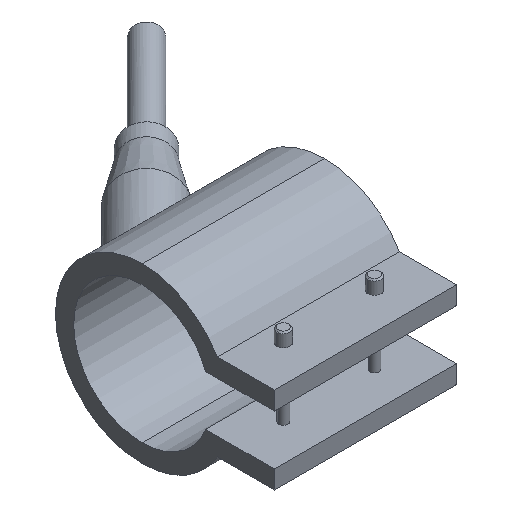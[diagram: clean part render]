
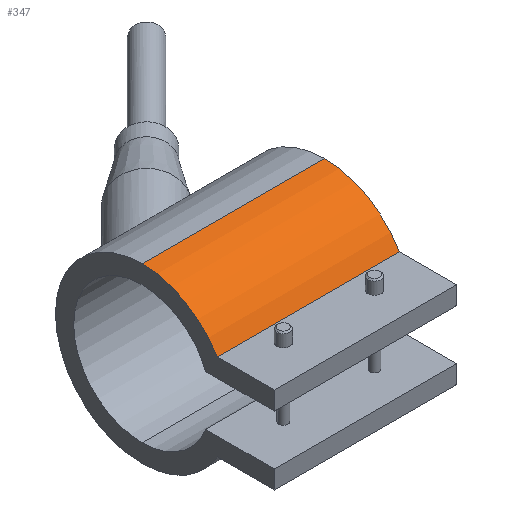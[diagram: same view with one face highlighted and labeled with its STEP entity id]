
A CAD part, isometric view. The second image highlights one B-rep face of the part: STEP entity #347.
In plain terms, the highlighted cylindrical face has radius 19 mm (diameter 38 mm), a partial arc.
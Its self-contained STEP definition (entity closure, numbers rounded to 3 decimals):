
#228=CARTESIAN_POINT('Line Origine',(20.,0.,19.)) ;
#232=CARTESIAN_POINT('Vertex',(20.,0.,19.)) ;
#234=CARTESIAN_POINT('Vertex',(-20.,0.,19.)) ;
#317=CARTESIAN_POINT('Axis2P3D Location',(20.,0.,0.)) ;
#322=CARTESIAN_POINT('Axis2P3D Location',(-20.,0.,0.)) ;
#326=CARTESIAN_POINT('Vertex',(-20.,-16.454,9.5)) ;
#329=CARTESIAN_POINT('Line Origine',(20.,-16.454,9.5)) ;
#333=CARTESIAN_POINT('Vertex',(20.,-16.454,9.5)) ;
#336=CARTESIAN_POINT('Axis2P3D Location',(20.,0.,0.)) ;
#229=DIRECTION('Vector Direction',(1.,0.,0.)) ;
#318=DIRECTION('Axis2P3D Direction',(1.,0.,-0.)) ;
#319=DIRECTION('Axis2P3D XDirection',(0.,0.,1.)) ;
#323=DIRECTION('Axis2P3D Direction',(1.,0.,-0.)) ;
#330=DIRECTION('Vector Direction',(1.,0.,0.)) ;
#337=DIRECTION('Axis2P3D Direction',(1.,0.,-0.)) ;
#320=AXIS2_PLACEMENT_3D('Cylinder Axis2P3D',#317,#318,#319) ;
#324=AXIS2_PLACEMENT_3D('Circle Axis2P3D',#322,#323,$) ;
#338=AXIS2_PLACEMENT_3D('Circle Axis2P3D',#336,#337,$) ;
#342=ORIENTED_EDGE('',*,*,#236,.T.) ;
#343=ORIENTED_EDGE('',*,*,#328,.T.) ;
#344=ORIENTED_EDGE('',*,*,#335,.F.) ;
#345=ORIENTED_EDGE('',*,*,#340,.F.) ;
#230=VECTOR('Line Direction',#229,1.) ;
#331=VECTOR('Line Direction',#330,1.) ;
#347=ADVANCED_FACE('29030040',(#346),#321,.T.) ;
#325=CIRCLE('generated circle',#324,19.) ;
#339=CIRCLE('generated circle',#338,19.) ;
#321=CYLINDRICAL_SURFACE('generated cylinder',#320,19.) ;
#236=EDGE_CURVE('',#233,#235,#231,.F.) ;
#328=EDGE_CURVE('',#235,#327,#325,.T.) ;
#335=EDGE_CURVE('',#334,#327,#332,.F.) ;
#340=EDGE_CURVE('',#233,#334,#339,.T.) ;
#341=EDGE_LOOP('',(#342,#343,#344,#345)) ;
#346=FACE_OUTER_BOUND('',#341,.T.) ;
#231=LINE('Line',#228,#230) ;
#332=LINE('Line',#329,#331) ;
#233=VERTEX_POINT('',#232) ;
#235=VERTEX_POINT('',#234) ;
#327=VERTEX_POINT('',#326) ;
#334=VERTEX_POINT('',#333) ;
